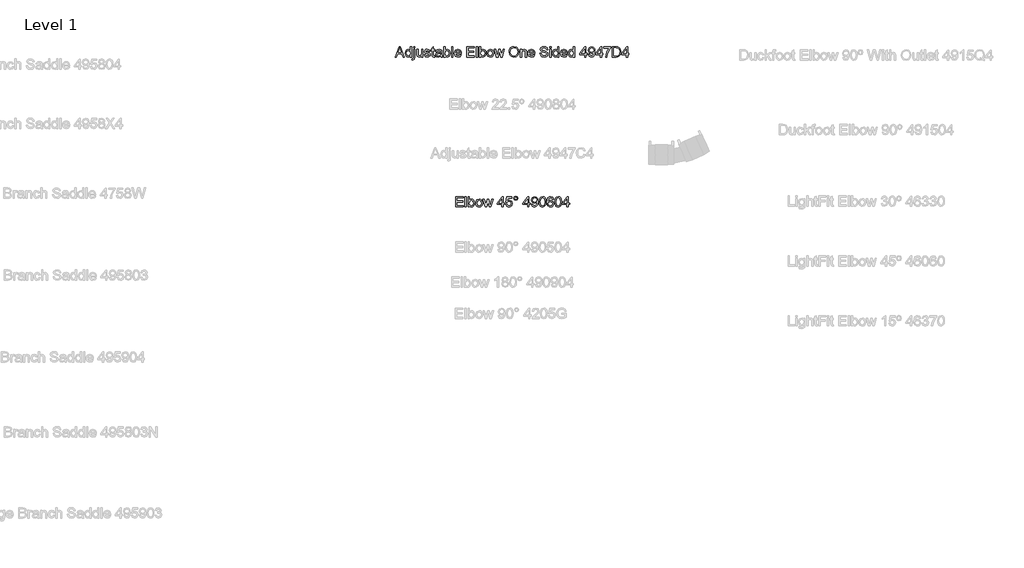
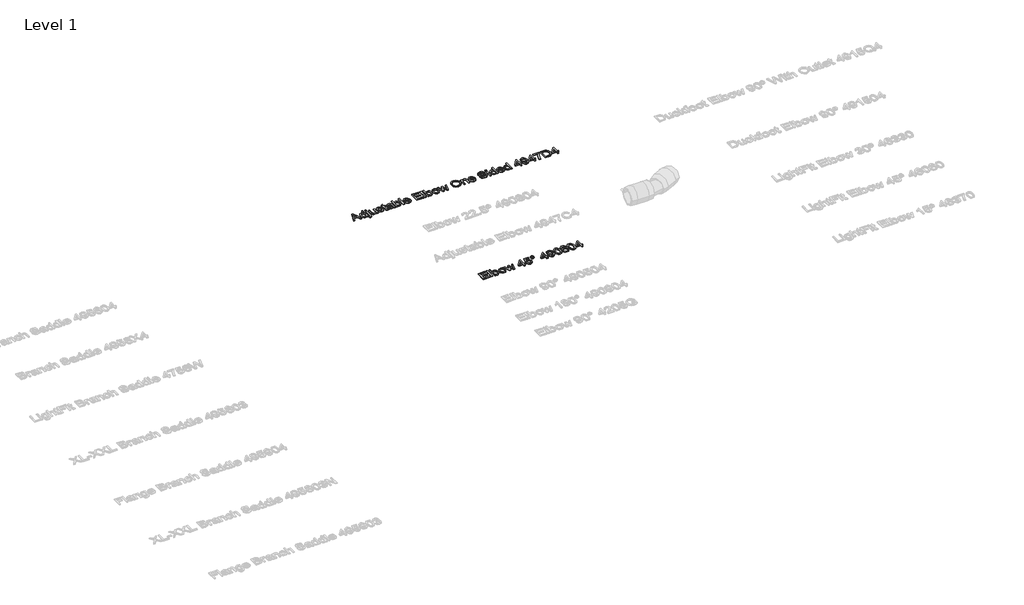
# One storey, part 18 of 41: 2 proxies.
"""IFC4 building model written with IfcOpenShell, lengths in millimetres."""

from ifc_helpers import new_model, si_unit, origin, origin_with_axes, place, context, project, spatial, polyline, outline, extrude, element, save

model = new_model("IFC4")

# Units and contexts
model_context = context("Model", 3, world=origin())
ifc_project = project(units=[si_unit("LENGTHUNIT", "METRE", prefix="MILLI")], contexts=[model_context])

# Site, building, storey
site = spatial("IfcSite", under=ifc_project)
building = spatial("IfcBuilding", under=site)
storey = spatial("IfcBuildingStorey", under=building, Name="Level 1", Elevation=0.0)

# Proxies
placement = place(None, origin())
element("IfcBuildingElementProxy", 1, Name="100 mm Arial", ObjectType="100 mm Arial", at=placement, inside=storey, context=model_context, shape_type="SweptSolid", body=[
    extrude(outline(polyline([(10985.4152968, 5008.1156584), (11008.9970276, 5067.1925814), (11015.2854891, 5067.1925814), (11038.8672199, 5008.1156584), (11031.0643353, 5008.1156584), (11024.2999122, 5026.5771968), (10999.9681814, 5026.5771968), (10993.2181814, 5008.1156584), (10985.4152968, 5008.1156584)]), holes=[polyline([(11002.6797199, 5033.9618122), (11021.6027968, 5033.9618122), (11016.2806814, 5048.4858507), (11012.1412583, 5059.8079661), (11008.4633737, 5049.7550814), (11002.6797199, 5033.9618122)])]), origin_with_axes(), (0.0, 0.0, 1.0), 5.0),
    extrude(outline(polyline([(11072.6027968, 5008.1156584), (11072.6027968, 5015.0820045), (11067.7169795, 5009.1649372), (11060.9633737, 5007.1925814), (11051.819143, 5010.0483507), (11045.3576045, 5018.0171007), (11043.0643353, 5029.7646968), (11045.177316, 5041.5195045), (11051.5090468, 5049.6108507), (11060.9345276, 5052.4233507), (11067.7422199, 5050.4113314), (11072.6027968, 5045.1829661), (11072.6027968, 5067.1925814), (11079.9874122, 5067.1925814), (11079.9874122, 5008.1156584), (11072.6027968, 5008.1156584)]), holes=[polyline([(11050.4489506, 5029.793543), (11053.7806814, 5018.3632545), (11061.6412583, 5014.5771968), (11069.4080853, 5018.1901776), (11072.6027968, 5029.231043), (11069.350393, 5041.2166199), (11061.3383737, 5045.0387353), (11053.5643353, 5041.3680622), (11050.4489506, 5029.793543)])]), origin_with_axes(), (0.0, 0.0, 1.0), 5.0),
    extrude(outline(polyline([(11091.0643353, 5059.8079661), (11091.0643353, 5067.1925814), (11098.4489506, 5067.1925814), (11098.4489506, 5059.8079661), (11091.0643353, 5059.8079661)])), origin_with_axes(), (0.0, 0.0, 1.0), 5.0),
    extrude(outline(polyline([(11081.7614506, 4991.4714276), (11083.319143, 4998.4954661), (11086.708566, 4997.9618122), (11089.989816, 4999.4257545), (11091.0643353, 5006.7454661), (11091.0643353, 5051.5002738), (11098.4489506, 5051.5002738), (11098.4489506, 5005.793543), (11096.3576045, 4994.6589276), (11087.5306814, 4990.5771968), (11081.7614506, 4991.4714276)])), origin_with_axes(), (0.0, 0.0, 1.0), 5.0),
    extrude(outline(polyline([(11137.2181814, 5008.1156584), (11137.2181814, 5015.5723891), (11131.4345276, 5009.2875334), (11123.8912583, 5007.1925814), (11116.9465468, 5008.6637353), (11112.1580853, 5012.356043), (11109.958566, 5017.793543), (11109.5258737, 5024.6589276), (11109.5258737, 5051.5002738), (11116.9104891, 5051.5002738), (11116.9104891, 5028.1348891), (11117.3576045, 5020.606043), (11120.2782776, 5016.1853699), (11125.7806814, 5014.5771968), (11131.9465468, 5016.2214276), (11136.021066, 5020.699793), (11137.2181814, 5028.9281584), (11137.2181814, 5051.5002738), (11144.6027968, 5051.5002738), (11144.6027968, 5008.1156584), (11137.2181814, 5008.1156584)])), origin_with_axes(), (0.0, 0.0, 1.0), 5.0),
    extrude(outline(polyline([(11151.9874122, 5021.0387353), (11159.3720276, 5021.9618122), (11162.7902968, 5016.481043), (11170.6220276, 5014.5771968), (11178.1508737, 5016.3223891), (11180.6027968, 5020.418543), (11178.1364506, 5023.7358507), (11170.5354891, 5025.8416199), (11159.4152968, 5029.4546007), (11154.5619314, 5033.6733507), (11152.9104891, 5039.6300814), (11154.2374122, 5045.1324853), (11157.8576045, 5049.3368122), (11162.552316, 5051.5219084), (11168.9056814, 5052.4233507), (11177.8912583, 5050.9738314), (11183.6027968, 5047.0507545), (11186.1412583, 5040.4233507), (11178.756643, 5039.5002738), (11175.9802006, 5043.574793), (11169.4826045, 5045.0387353), (11162.4152968, 5043.6396968), (11160.2951045, 5040.3800814), (11161.1749122, 5038.231043), (11163.9297199, 5036.6012353), (11170.2902968, 5035.0291199), (11181.1292391, 5031.5531584), (11186.162893, 5027.6156584), (11187.9874122, 5021.1973891), (11185.8455853, 5014.1300814), (11179.6652968, 5009.0026776), (11170.521066, 5007.1925814), (11157.6412583, 5010.6829661), (11151.9874122, 5021.0387353)])), origin_with_axes(), (0.0, 0.0, 1.0), 5.0),
    extrude(outline(polyline([(11211.9874122, 5014.2743122), (11212.9104891, 5007.8993122), (11207.3864506, 5007.1925814), (11201.1989506, 5008.418543), (11198.1124122, 5011.6348891), (11197.2181814, 5020.0146968), (11197.2181814, 5044.1156584), (11191.6797199, 5044.1156584), (11191.6797199, 5051.5002738), (11197.2181814, 5051.5002738), (11197.2181814, 5062.043543), (11204.6027968, 5066.3848891), (11204.6027968, 5051.5002738), (11211.9874122, 5051.5002738), (11211.9874122, 5044.1156584), (11204.6027968, 5044.1156584), (11204.6027968, 5020.231043), (11204.9922199, 5016.4233507), (11206.2542391, 5015.074793), (11208.771066, 5014.5771968), (11211.9874122, 5014.2743122)])), origin_with_axes(), (0.0, 0.0, 1.0), 5.0),
    extrude(outline(polyline([(11247.0643353, 5013.6541199), (11239.9032776, 5008.6493122), (11231.9922199, 5007.1925814), (11221.2686622, 5010.6973891), (11217.5258737, 5019.6541199), (11218.9393353, 5025.4954661), (11222.6532776, 5029.7358507), (11227.8239506, 5032.1589276), (11234.2133737, 5033.2695045), (11247.021066, 5035.8079661), (11247.0643353, 5037.4521968), (11245.0306814, 5042.9041199), (11236.8672199, 5045.0387353), (11229.396066, 5043.6180622), (11225.833566, 5038.5771968), (11218.4489506, 5039.5002738), (11221.6436622, 5046.7118122), (11228.0763545, 5050.9377738), (11237.819143, 5052.4233507), (11246.7686622, 5051.1108507), (11251.8239506, 5047.8151776), (11254.0883737, 5042.8031584), (11254.4489506, 5036.3416199), (11254.4489506, 5027.1541199), (11254.8239506, 5014.324793), (11256.2951045, 5008.1156584), (11248.9104891, 5008.1156584), (11247.0643353, 5013.6541199)]), holes=[polyline([(11247.0643353, 5028.4233507), (11235.1508737, 5026.1589276), (11228.7975083, 5024.9618122), (11225.9201045, 5023.0146968), (11224.9104891, 5020.1733507), (11227.1100083, 5016.1781584), (11233.5643353, 5014.5771968), (11241.0354891, 5016.3440238), (11245.8527968, 5020.6204661), (11247.021066, 5026.3320045), (11247.0643353, 5028.4233507)])]), origin_with_axes(), (0.0, 0.0, 1.0), 5.0),
    extrude(outline(polyline([(11271.9874122, 5008.1156584), (11264.6027968, 5008.1156584), (11264.6027968, 5067.1925814), (11271.9874122, 5067.1925814), (11271.9874122, 5045.2839276), (11277.1580853, 5050.6384949), (11283.583566, 5052.4233507), (11290.9826045, 5050.8151776), (11296.7229891, 5046.293543), (11300.2494314, 5039.262293), (11301.5258737, 5030.4570045), (11300.2043593, 5020.5988314), (11296.239816, 5013.2646968), (11290.4219074, 5008.7106103), (11283.5402968, 5007.1925814), (11276.974191, 5009.1505141), (11271.9874122, 5015.0243122), (11271.9874122, 5008.1156584)]), holes=[polyline([(11271.9874122, 5030.1108507), (11274.006643, 5019.7839276), (11282.9056814, 5014.5771968), (11290.8095276, 5018.4137353), (11294.1412583, 5029.8512353), (11290.9465468, 5041.3320045), (11283.2229891, 5045.0387353), (11275.319143, 5041.2021968), (11271.9874122, 5030.1108507)])]), origin_with_axes(), (0.0, 0.0, 1.0), 5.0),
    extrude(outline(polyline([(11309.833566, 5008.1156584), (11309.833566, 5067.1925814), (11317.2181814, 5067.1925814), (11317.2181814, 5008.1156584), (11309.833566, 5008.1156584)])), origin_with_axes(), (0.0, 0.0, 1.0), 5.0),
    extrude(outline(polyline([(11358.6701045, 5021.0387353), (11365.9104891, 5020.1156584), (11359.1388545, 5010.5820045), (11346.5258737, 5007.1925814), (11337.8612103, 5008.6547209), (11331.194143, 5013.0411391), (11326.942941, 5020.0669805), (11325.5258737, 5029.4473891), (11326.9573641, 5039.1433026), (11331.2518353, 5046.3945045), (11337.8287583, 5050.9161391), (11346.1076045, 5052.4233507), (11354.1286381, 5050.9197449), (11360.537893, 5046.4089276), (11364.740417, 5039.1721488), (11366.1412583, 5029.4906584), (11366.0979891, 5027.5002738), (11332.9104891, 5027.5002738), (11337.1580853, 5017.9089276), (11346.6701045, 5014.5771968), (11353.9104891, 5016.1204661), (11358.6701045, 5021.0387353)]), holes=[polyline([(11332.9104891, 5034.8848891), (11358.756643, 5034.8848891), (11355.7999122, 5041.5771968), (11346.0787583, 5045.0387353), (11336.9850083, 5042.2767161), (11332.9104891, 5034.8848891)])]), origin_with_axes(), (0.0, 0.0, 1.0), 5.0),
    extrude(outline(polyline([(11397.5258737, 5008.1156584), (11397.5258737, 5067.1925814), (11439.9874122, 5067.1925814), (11439.9874122, 5059.8079661), (11404.9104891, 5059.8079661), (11404.9104891, 5042.2695045), (11438.1412583, 5042.2695045), (11438.1412583, 5034.8848891), (11404.9104891, 5034.8848891), (11404.9104891, 5015.5002738), (11440.9104891, 5015.5002738), (11440.9104891, 5008.1156584), (11397.5258737, 5008.1156584)])), origin_with_axes(), (0.0, 0.0, 1.0), 5.0),
    extrude(outline(polyline([(11451.0643353, 5008.1156584), (11451.0643353, 5067.1925814), (11458.4489506, 5067.1925814), (11458.4489506, 5008.1156584), (11451.0643353, 5008.1156584)])), origin_with_axes(), (0.0, 0.0, 1.0), 5.0),
    extrude(outline(polyline([(11476.9104891, 5008.1156584), (11469.5258737, 5008.1156584), (11469.5258737, 5067.1925814), (11476.9104891, 5067.1925814), (11476.9104891, 5045.2839276), (11482.0811622, 5050.6384949), (11488.506643, 5052.4233507), (11495.9056814, 5050.8151776), (11501.646066, 5046.293543), (11505.1725083, 5039.262293), (11506.4489506, 5030.4570045), (11505.1274362, 5020.5988314), (11501.162893, 5013.2646968), (11495.3449843, 5008.7106103), (11488.4633737, 5007.1925814), (11481.897268, 5009.1505141), (11476.9104891, 5015.0243122), (11476.9104891, 5008.1156584)]), holes=[polyline([(11476.9104891, 5030.1108507), (11478.9297199, 5019.7839276), (11487.8287583, 5014.5771968), (11495.7326045, 5018.4137353), (11499.0643353, 5029.8512353), (11495.8696237, 5041.3320045), (11488.146066, 5045.0387353), (11480.2422199, 5041.2021968), (11476.9104891, 5030.1108507)])]), origin_with_axes(), (0.0, 0.0, 1.0), 5.0),
    extrude(outline(polyline([(11512.9104891, 5029.8079661), (11514.5078449, 5040.2683026), (11519.2999122, 5047.6204661), (11532.3095276, 5052.4233507), (11540.0673401, 5050.9612113), (11546.2638545, 5046.574793), (11550.3257535, 5039.6102497), (11551.6797199, 5030.4137353), (11549.2854891, 5017.2743122), (11542.3119314, 5009.8392161), (11532.3095276, 5007.1925814), (11524.4579651, 5008.6493122), (11518.2686622, 5013.0195045), (11514.2500324, 5020.1300814), (11512.9104891, 5029.8079661)]), holes=[polyline([(11520.2951045, 5029.8223891), (11523.7133737, 5018.3776776), (11532.3095276, 5014.5771968), (11540.8768353, 5018.3993122), (11544.2951045, 5030.0531584), (11540.8552006, 5041.2382545), (11532.3095276, 5045.0387353), (11523.7133737, 5041.2526776), (11520.2951045, 5029.8223891)])]), origin_with_axes(), (0.0, 0.0, 1.0), 5.0),
    extrude(outline(polyline([(11567.1845276, 5008.1156584), (11553.9874122, 5051.5002738), (11561.6604891, 5051.5002738), (11569.146066, 5026.1877738), (11571.381643, 5017.1445045), (11573.2133737, 5025.856043), (11579.1701045, 5051.5002738), (11587.9681814, 5051.5002738), (11593.896066, 5025.9281584), (11595.5258737, 5018.0387353), (11597.8624122, 5026.3608507), (11605.3624122, 5051.5002738), (11613.0643353, 5051.5002738), (11599.7662583, 5008.1156584), (11590.8383737, 5008.1156584), (11585.1701045, 5033.5579661), (11583.5258737, 5041.4906584), (11576.2133737, 5008.1156584), (11567.1845276, 5008.1156584)])), origin_with_axes(), (0.0, 0.0, 1.0), 5.0),
    extrude(outline(polyline([(11639.3720276, 5036.8752738), (11641.3407776, 5049.9389757), (11647.2470276, 5059.8223891), (11656.2650564, 5066.0423411), (11667.569143, 5068.1156584), (11682.2662583, 5064.2214276), (11692.2470276, 5053.3608507), (11695.6797199, 5037.5531584), (11692.0667391, 5021.5291199), (11681.8263545, 5010.8271968), (11667.5258737, 5007.1925814), (11652.6701045, 5011.2094084), (11642.7470276, 5022.1709468), (11639.3720276, 5036.8752738)]), holes=[polyline([(11646.756643, 5036.8031584), (11648.2332055, 5027.5615718), (11652.662893, 5020.5195045), (11659.3209458, 5016.0627738), (11667.4826045, 5014.5771968), (11675.7632535, 5016.0771968), (11682.4321237, 5020.5771968), (11686.8293593, 5027.8356103), (11688.2951045, 5037.6108507), (11685.7854891, 5049.7983507), (11678.4513545, 5057.8680622), (11667.6124122, 5060.731043), (11652.9152968, 5055.2142161), (11648.2963064, 5047.8530382), (11646.756643, 5036.8031584)])]), origin_with_axes(), (0.0, 0.0, 1.0), 5.0),
    extrude(outline(polyline([(11704.9104891, 5008.1156584), (11704.9104891, 5051.5002738), (11712.2951045, 5051.5002738), (11712.2951045, 5045.4425814), (11717.9417391, 5050.6781584), (11725.6508737, 5052.4233507), (11732.6244314, 5051.0171007), (11737.3840468, 5047.324793), (11739.5979891, 5041.8945045), (11739.9874122, 5034.7550814), (11739.9874122, 5008.1156584), (11732.6027968, 5008.1156584), (11732.6027968, 5033.7598891), (11731.7518353, 5040.293543), (11728.7446237, 5043.7478699), (11723.6749122, 5045.0387353), (11715.662893, 5042.1396968), (11712.2951045, 5031.1348891), (11712.2951045, 5008.1156584), (11704.9104891, 5008.1156584)])), origin_with_axes(), (0.0, 0.0, 1.0), 5.0),
    extrude(outline(polyline([(11780.5162583, 5021.0387353), (11787.756643, 5020.1156584), (11780.9850083, 5010.5820045), (11768.3720276, 5007.1925814), (11759.7073641, 5008.6547209), (11753.0402968, 5013.0411391), (11748.7890949, 5020.0669805), (11747.3720276, 5029.4473891), (11748.803518, 5039.1433026), (11753.0979891, 5046.3945045), (11759.6749122, 5050.9161391), (11767.9537583, 5052.4233507), (11775.974792, 5050.9197449), (11782.3840468, 5046.4089276), (11786.5865708, 5039.1721488), (11787.9874122, 5029.4906584), (11787.944143, 5027.5002738), (11754.756643, 5027.5002738), (11759.0042391, 5017.9089276), (11768.5162583, 5014.5771968), (11775.756643, 5016.1204661), (11780.5162583, 5021.0387353)]), holes=[polyline([(11754.756643, 5034.8848891), (11780.6027968, 5034.8848891), (11777.646066, 5041.5771968), (11767.9249122, 5045.0387353), (11758.8311622, 5042.2767161), (11754.756643, 5034.8848891)])]), origin_with_axes(), (0.0, 0.0, 1.0), 5.0),
    extrude(outline(polyline([(11816.6027968, 5028.4233507), (11823.9874122, 5028.4233507), (11826.3672199, 5021.0315238), (11832.1797199, 5016.3584468), (11841.0354891, 5014.5771968), (11848.7518353, 5015.9257545), (11853.7350083, 5019.6324853), (11855.3720276, 5024.5868122), (11854.146066, 5029.1949853), (11849.1268353, 5032.5483507), (11838.3744314, 5035.3680622), (11826.7999122, 5039.0098891), (11820.5186622, 5044.5050814), (11818.4489506, 5051.8464276), (11821.0090468, 5060.2046007), (11828.4874122, 5066.1036391), (11839.4345276, 5068.1156584), (11851.1172199, 5066.0098891), (11858.9056814, 5059.8223891), (11861.833566, 5050.5771968), (11854.4489506, 5050.5771968), (11850.2662583, 5058.1637353), (11839.7229891, 5060.731043), (11829.1508737, 5058.1925814), (11825.833566, 5052.0627738), (11828.1845276, 5046.9425814), (11840.2422199, 5042.8175814), (11853.3095276, 5039.1108507), (11860.4561622, 5033.1252738), (11862.756643, 5024.7743122), (11860.1100083, 5015.9401776), (11852.4946237, 5009.4930622), (11841.3239506, 5007.1925814), (11828.1340468, 5009.6733507), (11819.7902968, 5017.1445045), (11816.6027968, 5028.4233507)])), origin_with_axes(), (0.0, 0.0, 1.0), 5.0),
    extrude(outline(polyline([(11872.9104891, 5008.1156584), (11872.9104891, 5051.5002738), (11880.2951045, 5051.5002738), (11880.2951045, 5008.1156584), (11872.9104891, 5008.1156584)])), origin_with_axes(), (0.0, 0.0, 1.0), 5.0),
    extrude(outline(polyline([(11872.9104891, 5059.8079661), (11872.9104891, 5067.1925814), (11880.2951045, 5067.1925814), (11880.2951045, 5059.8079661), (11872.9104891, 5059.8079661)])), origin_with_axes(), (0.0, 0.0, 1.0), 5.0),
    extrude(outline(polyline([(11918.1412583, 5008.1156584), (11918.1412583, 5015.0820045), (11913.255441, 5009.1649372), (11906.5018353, 5007.1925814), (11897.3576045, 5010.0483507), (11890.896066, 5018.0171007), (11888.6027968, 5029.7646968), (11890.7157776, 5041.5195045), (11897.0475083, 5049.6108507), (11906.4729891, 5052.4233507), (11913.2806814, 5050.4113314), (11918.1412583, 5045.1829661), (11918.1412583, 5067.1925814), (11925.5258737, 5067.1925814), (11925.5258737, 5008.1156584), (11918.1412583, 5008.1156584)]), holes=[polyline([(11895.9874122, 5029.793543), (11899.319143, 5018.3632545), (11907.1797199, 5014.5771968), (11914.9465468, 5018.1901776), (11918.1412583, 5029.231043), (11914.8888545, 5041.2166199), (11906.8768353, 5045.0387353), (11899.1027968, 5041.3680622), (11895.9874122, 5029.793543)])]), origin_with_axes(), (0.0, 0.0, 1.0), 5.0),
    extrude(outline(polyline([(11966.9777968, 5021.0387353), (11974.2181814, 5020.1156584), (11967.4465468, 5010.5820045), (11954.833566, 5007.1925814), (11946.1689026, 5008.6547209), (11939.5018353, 5013.0411391), (11935.2506333, 5020.0669805), (11933.833566, 5029.4473891), (11935.2650564, 5039.1433026), (11939.5595276, 5046.3945045), (11946.1364506, 5050.9161391), (11954.4152968, 5052.4233507), (11962.4363305, 5050.9197449), (11968.8455853, 5046.4089276), (11973.0481093, 5039.1721488), (11974.4489506, 5029.4906584), (11974.4056814, 5027.5002738), (11941.2181814, 5027.5002738), (11945.4657776, 5017.9089276), (11954.9777968, 5014.5771968), (11962.2181814, 5016.1204661), (11966.9777968, 5021.0387353)]), holes=[polyline([(11941.2181814, 5034.8848891), (11967.0643353, 5034.8848891), (11964.1076045, 5041.5771968), (11954.3864506, 5045.0387353), (11945.2927006, 5042.2767161), (11941.2181814, 5034.8848891)])]), origin_with_axes(), (0.0, 0.0, 1.0), 5.0),
    extrude(outline(polyline([(12008.6027968, 5008.1156584), (12008.6027968, 5015.0820045), (12003.7169795, 5009.1649372), (11996.9633737, 5007.1925814), (11987.819143, 5010.0483507), (11981.3576045, 5018.0171007), (11979.0643353, 5029.7646968), (11981.177316, 5041.5195045), (11987.5090468, 5049.6108507), (11996.9345276, 5052.4233507), (12003.7422199, 5050.4113314), (12008.6027968, 5045.1829661), (12008.6027968, 5067.1925814), (12015.9874122, 5067.1925814), (12015.9874122, 5008.1156584), (12008.6027968, 5008.1156584)]), holes=[polyline([(11986.4489506, 5029.793543), (11989.7806814, 5018.3632545), (11997.6412583, 5014.5771968), (12005.4080853, 5018.1901776), (12008.6027968, 5029.231043), (12005.350393, 5041.2166199), (11997.3383737, 5045.0387353), (11989.5643353, 5041.3680622), (11986.4489506, 5029.793543)])]), origin_with_axes(), (0.0, 0.0, 1.0), 5.0),
    extrude(outline(polyline([(12072.2951045, 5008.1156584), (12072.2951045, 5021.9618122), (12045.5258737, 5021.9618122), (12045.5258737, 5029.3464276), (12074.1412583, 5066.2695045), (12079.6797199, 5066.2695045), (12079.6797199, 5029.3464276), (12087.0643353, 5029.3464276), (12087.0643353, 5021.9618122), (12079.6797199, 5021.9618122), (12079.6797199, 5008.1156584), (12072.2951045, 5008.1156584)]), holes=[polyline([(12072.2951045, 5029.3464276), (12072.2951045, 5052.1637353), (12054.6124122, 5029.3464276), (12072.2951045, 5029.3464276)])]), origin_with_axes(), (0.0, 0.0, 1.0), 5.0),
    extrude(outline(polyline([(12094.4489506, 5022.8848891), (12101.833566, 5023.8079661), (12105.1508737, 5016.762293), (12111.4393353, 5014.5771968), (12117.4177006, 5015.9834468), (12121.4705853, 5019.7406584), (12123.8864506, 5026.1589276), (12124.9537583, 5034.7262353), (12119.0042391, 5030.5723891), (12110.9056814, 5028.4233507), (12098.5667391, 5033.6733507), (12093.5258737, 5047.5050814), (12098.8119314, 5061.7839276), (12112.0595276, 5067.1925814), (12122.5811622, 5064.106043), (12129.8215468, 5055.3079661), (12132.2951045, 5038.7791199), (12129.8287583, 5020.8440238), (12122.4946237, 5010.6829661), (12111.0931814, 5007.1925814), (12099.7422199, 5011.3103699), (12094.4489506, 5022.8848891)]), holes=[polyline([(12124.9104891, 5047.6781584), (12121.7229891, 5056.5339276), (12113.256643, 5059.8079661), (12104.3720276, 5056.2815238), (12100.9104891, 5047.1445045), (12104.1845276, 5038.9594084), (12113.0547199, 5035.8079661), (12121.5715468, 5038.9594084), (12124.9104891, 5047.6781584)])]), origin_with_axes(), (0.0, 0.0, 1.0), 5.0),
    extrude(outline(polyline([(12162.756643, 5008.1156584), (12162.756643, 5021.9618122), (12135.9874122, 5021.9618122), (12135.9874122, 5029.3464276), (12164.6027968, 5066.2695045), (12170.1412583, 5066.2695045), (12170.1412583, 5029.3464276), (12177.5258737, 5029.3464276), (12177.5258737, 5021.9618122), (12170.1412583, 5021.9618122), (12170.1412583, 5008.1156584), (12162.756643, 5008.1156584)]), holes=[polyline([(12162.756643, 5029.3464276), (12162.756643, 5052.1637353), (12145.0739506, 5029.3464276), (12162.756643, 5029.3464276)])]), origin_with_axes(), (0.0, 0.0, 1.0), 5.0),
    extrude(outline(polyline([(12183.9874122, 5058.8848891), (12183.9874122, 5066.2695045), (12222.756643, 5066.2695045), (12222.756643, 5060.2983507), (12211.7590468, 5044.4113314), (12203.3431814, 5024.168543), (12200.6027968, 5008.1156584), (12193.2181814, 5008.1156584), (12196.1532776, 5024.7743122), (12204.208566, 5043.6036391), (12215.3720276, 5058.8848891), (12183.9874122, 5058.8848891)])), origin_with_axes(), (0.0, 0.0, 1.0), 5.0),
    extrude(outline(polyline([(12231.9874122, 5008.1156584), (12231.9874122, 5067.1925814), (12252.3672199, 5067.1925814), (12262.9104891, 5066.3416199), (12271.5931814, 5062.1156584), (12278.5883737, 5052.0195045), (12280.9104891, 5037.9714276), (12279.3383737, 5026.0507545), (12275.2999122, 5017.4473891), (12269.9056814, 5012.0892161), (12262.8455853, 5009.1252738), (12253.3479891, 5008.1156584), (12231.9874122, 5008.1156584)]), holes=[polyline([(12239.3720276, 5015.5002738), (12252.4393353, 5015.5002738), (12261.944143, 5016.5675814), (12267.4249122, 5019.5820045), (12271.9177006, 5026.9161391), (12273.5258737, 5038.0868122), (12270.3744314, 5052.0771968), (12262.708566, 5058.6252738), (12252.2374122, 5059.8079661), (12239.3720276, 5059.8079661), (12239.3720276, 5015.5002738)])]), origin_with_axes(), (0.0, 0.0, 1.0), 5.0),
    extrude(outline(polyline([(12312.2951045, 5008.1156584), (12312.2951045, 5021.9618122), (12285.5258737, 5021.9618122), (12285.5258737, 5029.3464276), (12314.1412583, 5066.2695045), (12319.6797199, 5066.2695045), (12319.6797199, 5029.3464276), (12327.0643353, 5029.3464276), (12327.0643353, 5021.9618122), (12319.6797199, 5021.9618122), (12319.6797199, 5008.1156584), (12312.2951045, 5008.1156584)]), holes=[polyline([(12312.2951045, 5029.3464276), (12312.2951045, 5052.1637353), (12294.6124122, 5029.3464276), (12312.2951045, 5029.3464276)])]), origin_with_axes(), (0.0, 0.0, 1.0), 5.0),
])
element("IfcBuildingElementProxy", 2, Name="100 mm Arial", ObjectType="100 mm Arial", at=placement, inside=storey, context=model_context, shape_type="SweptSolid", body=[
    extrude(outline(polyline([(11332.9104891, 4148.1156584), (11332.9104891, 4207.1925814), (11375.3720276, 4207.1925814), (11375.3720276, 4199.8079661), (11340.2951045, 4199.8079661), (11340.2951045, 4182.2695045), (11373.5258737, 4182.2695045), (11373.5258737, 4174.8848891), (11340.2951045, 4174.8848891), (11340.2951045, 4155.5002738), (11376.2951045, 4155.5002738), (11376.2951045, 4148.1156584), (11332.9104891, 4148.1156584)])), origin_with_axes(), (0.0, 0.0, 1.0), 5.0),
    extrude(outline(polyline([(11386.4489506, 4148.1156584), (11386.4489506, 4207.1925814), (11393.833566, 4207.1925814), (11393.833566, 4148.1156584), (11386.4489506, 4148.1156584)])), origin_with_axes(), (0.0, 0.0, 1.0), 5.0),
    extrude(outline(polyline([(11412.2951045, 4148.1156584), (11404.9104891, 4148.1156584), (11404.9104891, 4207.1925814), (11412.2951045, 4207.1925814), (11412.2951045, 4185.2839276), (11417.4657776, 4190.6384949), (11423.8912583, 4192.4233507), (11431.2902968, 4190.8151776), (11437.0306814, 4186.293543), (11440.5571237, 4179.262293), (11441.833566, 4170.4570045), (11440.5120516, 4160.5988314), (11436.5475083, 4153.2646968), (11430.7295997, 4148.7106103), (11423.8479891, 4147.1925814), (11417.2818833, 4149.1505141), (11412.2951045, 4155.0243122), (11412.2951045, 4148.1156584)]), holes=[polyline([(11412.2951045, 4170.1108507), (11414.3143353, 4159.7839276), (11423.2133737, 4154.5771968), (11431.1172199, 4158.4137353), (11434.4489506, 4169.8512353), (11431.2542391, 4181.3320045), (11423.5306814, 4185.0387353), (11415.6268353, 4181.2021968), (11412.2951045, 4170.1108507)])]), origin_with_axes(), (0.0, 0.0, 1.0), 5.0),
    extrude(outline(polyline([(11448.2951045, 4169.8079661), (11449.8924603, 4180.2683026), (11454.6845276, 4187.6204661), (11467.694143, 4192.4233507), (11475.4519555, 4190.9612113), (11481.6484699, 4186.574793), (11485.7103689, 4179.6102497), (11487.0643353, 4170.4137353), (11484.6701045, 4157.2743122), (11477.6965468, 4149.8392161), (11467.694143, 4147.1925814), (11459.8425805, 4148.6493122), (11453.6532776, 4153.0195045), (11449.6346478, 4160.1300814), (11448.2951045, 4169.8079661)]), holes=[polyline([(11455.6797199, 4169.8223891), (11459.0979891, 4158.3776776), (11467.694143, 4154.5771968), (11476.2614506, 4158.3993122), (11479.6797199, 4170.0531584), (11476.239816, 4181.2382545), (11467.694143, 4185.0387353), (11459.0979891, 4181.2526776), (11455.6797199, 4169.8223891)])]), origin_with_axes(), (0.0, 0.0, 1.0), 5.0),
    extrude(outline(polyline([(11502.569143, 4148.1156584), (11489.3720276, 4191.5002738), (11497.0451045, 4191.5002738), (11504.5306814, 4166.1877738), (11506.7662583, 4157.1445045), (11508.5979891, 4165.856043), (11514.5547199, 4191.5002738), (11523.3527968, 4191.5002738), (11529.2806814, 4165.9281584), (11530.9104891, 4158.0387353), (11533.2470276, 4166.3608507), (11540.7470276, 4191.5002738), (11548.4489506, 4191.5002738), (11535.1508737, 4148.1156584), (11526.2229891, 4148.1156584), (11520.5547199, 4173.5579661), (11518.9104891, 4181.4906584), (11511.5979891, 4148.1156584), (11502.569143, 4148.1156584)])), origin_with_axes(), (0.0, 0.0, 1.0), 5.0),
    extrude(outline(polyline([(11598.756643, 4148.1156584), (11598.756643, 4161.9618122), (11571.9874122, 4161.9618122), (11571.9874122, 4169.3464276), (11600.6027968, 4206.2695045), (11606.1412583, 4206.2695045), (11606.1412583, 4169.3464276), (11613.5258737, 4169.3464276), (11613.5258737, 4161.9618122), (11606.1412583, 4161.9618122), (11606.1412583, 4148.1156584), (11598.756643, 4148.1156584)]), holes=[polyline([(11598.756643, 4169.3464276), (11598.756643, 4192.1637353), (11581.0739506, 4169.3464276), (11598.756643, 4169.3464276)])]), origin_with_axes(), (0.0, 0.0, 1.0), 5.0),
    extrude(outline(polyline([(11619.9874122, 4163.8079661), (11627.3720276, 4164.731043), (11631.0931814, 4157.1228699), (11638.8095276, 4154.5771968), (11648.069143, 4158.1180622), (11651.3720276, 4167.5146968), (11648.2782776, 4176.2839276), (11638.9249122, 4179.5002738), (11632.4417391, 4178.2166199), (11628.2951045, 4174.8848891), (11620.9104891, 4175.8079661), (11627.3720276, 4206.2695045), (11655.9874122, 4206.2695045), (11655.9874122, 4198.8848891), (11633.3431814, 4198.8848891), (11630.1845276, 4182.6156584), (11640.9874122, 4186.8848891), (11653.614816, 4181.5916199), (11658.756643, 4167.9762353), (11654.1268353, 4154.2743122), (11647.4777968, 4148.9630141), (11638.7806814, 4147.1925814), (11625.7494314, 4151.7430622), (11619.9874122, 4163.8079661)])), origin_with_axes(), (0.0, 0.0, 1.0), 5.0),
    extrude(outline(polyline([(11667.0643353, 4197.0531584), (11670.3167391, 4204.8848891), (11678.1268353, 4208.1156584), (11685.9874122, 4204.8848891), (11689.2181814, 4197.0531584), (11685.9657776, 4189.2142161), (11678.1268353, 4185.9618122), (11670.3167391, 4189.1925814), (11667.0643353, 4197.0531584)]), holes=[polyline([(11671.6797199, 4197.0387353), (11673.5763545, 4192.4666199), (11678.1556814, 4190.5771968), (11682.7061622, 4192.4666199), (11684.6027968, 4197.0387353), (11682.7061622, 4201.6108507), (11678.1556814, 4203.5002738), (11673.5763545, 4201.6108507), (11671.6797199, 4197.0387353)])]), origin_with_axes(), (0.0, 0.0, 1.0), 5.0),
    extrude(outline(polyline([(11745.5258737, 4148.1156584), (11745.5258737, 4161.9618122), (11718.756643, 4161.9618122), (11718.756643, 4169.3464276), (11747.3720276, 4206.2695045), (11752.9104891, 4206.2695045), (11752.9104891, 4169.3464276), (11760.2951045, 4169.3464276), (11760.2951045, 4161.9618122), (11752.9104891, 4161.9618122), (11752.9104891, 4148.1156584), (11745.5258737, 4148.1156584)]), holes=[polyline([(11745.5258737, 4169.3464276), (11745.5258737, 4192.1637353), (11727.8431814, 4169.3464276), (11745.5258737, 4169.3464276)])]), origin_with_axes(), (0.0, 0.0, 1.0), 5.0),
    extrude(outline(polyline([(11767.6797199, 4162.8848891), (11775.0643353, 4163.8079661), (11778.381643, 4156.762293), (11784.6701045, 4154.5771968), (11790.6484699, 4155.9834468), (11794.7013545, 4159.7406584), (11797.1172199, 4166.1589276), (11798.1845276, 4174.7262353), (11792.2350083, 4170.5723891), (11784.1364506, 4168.4233507), (11771.7975083, 4173.6733507), (11766.756643, 4187.5050814), (11772.0427006, 4201.7839276), (11785.2902968, 4207.1925814), (11795.8119314, 4204.106043), (11803.052316, 4195.3079661), (11805.5258737, 4178.7791199), (11803.0595276, 4160.8440238), (11795.725393, 4150.6829661), (11784.3239506, 4147.1925814), (11772.9729891, 4151.3103699), (11767.6797199, 4162.8848891)]), holes=[polyline([(11798.1412583, 4187.6781584), (11794.9537583, 4196.5339276), (11786.4874122, 4199.8079661), (11777.6027968, 4196.2815238), (11774.1412583, 4187.1445045), (11777.4152968, 4178.9594084), (11786.2854891, 4175.8079661), (11794.802316, 4178.9594084), (11798.1412583, 4187.6781584)])]), origin_with_axes(), (0.0, 0.0, 1.0), 5.0),
    extrude(outline(polyline([(11811.9874122, 4177.1781584), (11814.1580853, 4194.1757545), (11820.6052006, 4203.9762353), (11831.3720276, 4207.1925814), (11839.9970276, 4205.2887353), (11845.9537583, 4199.8007545), (11849.4152968, 4191.0603699), (11850.756643, 4177.1781584), (11848.6076045, 4160.2526776), (11842.1821237, 4150.4305622), (11831.3720276, 4147.1925814), (11823.6989506, 4148.5988314), (11817.8720276, 4152.8175814), (11813.458566, 4162.809168), (11811.9874122, 4177.1781584)]), holes=[polyline([(11819.3720276, 4177.1925814), (11822.833566, 4158.8536391), (11831.3720276, 4154.5771968), (11839.9104891, 4158.8680622), (11843.3720276, 4177.1925814), (11840.0258737, 4195.3223891), (11831.2854891, 4199.8079661), (11822.9489506, 4195.856043), (11819.3720276, 4177.1925814)])]), origin_with_axes(), (0.0, 0.0, 1.0), 5.0),
    extrude(outline(polyline([(11895.0643353, 4191.5002738), (11887.6797199, 4190.5771968), (11884.881643, 4196.7358507), (11877.4826045, 4199.8079661), (11870.819143, 4198.0195045), (11865.7782776, 4191.3055622), (11863.6797199, 4178.1445045), (11870.1917391, 4184.0363314), (11878.2614506, 4185.9618122), (11890.8095276, 4180.6973891), (11895.9874122, 4167.0964276), (11893.5499122, 4156.9065238), (11886.8431814, 4149.6949853), (11877.1652968, 4147.1925814), (11868.787292, 4148.8512353), (11862.114816, 4153.8271968), (11857.7500324, 4162.6108507), (11856.2951045, 4175.6925814), (11857.9104891, 4190.4005141), (11862.756643, 4200.4570045), (11869.3732295, 4205.5086872), (11877.944143, 4207.1925814), (11889.6124122, 4203.0243122), (11895.0643353, 4191.5002738)]), holes=[polyline([(11863.6797199, 4167.2118122), (11865.3888545, 4160.8151776), (11869.9321237, 4156.1709468), (11876.5883737, 4154.5771968), (11885.2927006, 4157.8800814), (11888.6027968, 4166.8512353), (11885.3359699, 4175.4401776), (11876.2854891, 4178.5771968), (11867.350393, 4175.4401776), (11863.6797199, 4167.2118122)])]), origin_with_axes(), (0.0, 0.0, 1.0), 5.0),
    extrude(outline(polyline([(11902.4489506, 4177.1781584), (11904.6196237, 4194.1757545), (11911.0667391, 4203.9762353), (11921.833566, 4207.1925814), (11930.458566, 4205.2887353), (11936.4152968, 4199.8007545), (11939.8768353, 4191.0603699), (11941.2181814, 4177.1781584), (11939.069143, 4160.2526776), (11932.6436622, 4150.4305622), (11921.833566, 4147.1925814), (11914.1604891, 4148.5988314), (11908.333566, 4152.8175814), (11903.9201045, 4162.809168), (11902.4489506, 4177.1781584)]), holes=[polyline([(11909.833566, 4177.1925814), (11913.2951045, 4158.8536391), (11921.833566, 4154.5771968), (11930.3720276, 4158.8680622), (11933.833566, 4177.1925814), (11930.4874122, 4195.3223891), (11921.7470276, 4199.8079661), (11913.4104891, 4195.856043), (11909.833566, 4177.1925814)])]), origin_with_axes(), (0.0, 0.0, 1.0), 5.0),
    extrude(outline(polyline([(11971.6797199, 4148.1156584), (11971.6797199, 4161.9618122), (11944.9104891, 4161.9618122), (11944.9104891, 4169.3464276), (11973.5258737, 4206.2695045), (11979.0643353, 4206.2695045), (11979.0643353, 4169.3464276), (11986.4489506, 4169.3464276), (11986.4489506, 4161.9618122), (11979.0643353, 4161.9618122), (11979.0643353, 4148.1156584), (11971.6797199, 4148.1156584)]), holes=[polyline([(11971.6797199, 4169.3464276), (11971.6797199, 4192.1637353), (11953.9970276, 4169.3464276), (11971.6797199, 4169.3464276)])]), origin_with_axes(), (0.0, 0.0, 1.0), 5.0),
])

save(model, "model.ifc")
